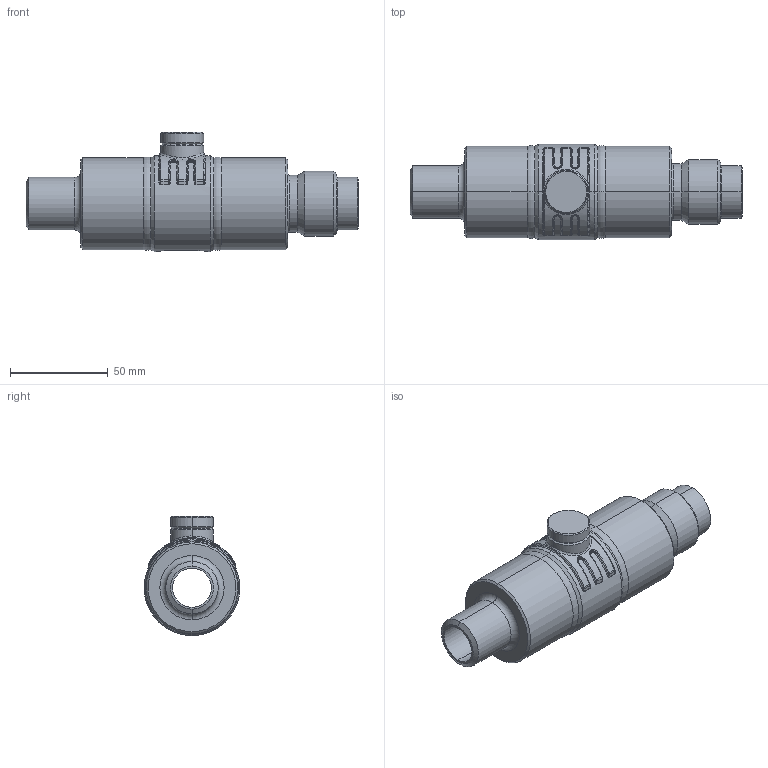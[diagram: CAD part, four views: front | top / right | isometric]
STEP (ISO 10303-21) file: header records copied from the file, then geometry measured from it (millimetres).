
FILE_DESCRIPTION((''),'2;1');
FILE_NAME('KHMO-AB-V-ISKT-020P040','2025-02-11T14:26:34',('jeitlers'),('KLINGER'),'CREO PARAMETRIC BY PTC INC, 2023014','CREO PARAMETRIC BY PTC INC, 2023014','');
FILE_SCHEMA(('CONFIG_CONTROL_DESIGN'));
Length unit declared in the file: millimetre
Products named in the file (1): KHMO-AB-V-ISKT-020P040
Bounding box: 170 x 49 x 61 mm (x, y, z)
Volume: 171246.5 mm3; surface area: 49640.4 mm2
Topology: 1 solids, 1 shells, 335 faces, 723 edges, 405 vertices
Faces by surface type: cylinder 101, torus 76, plane 64, bspline 48, cone 44, sphere 2
Entity records: 16854 total; most frequent: CARTESIAN_POINT 9717, DIRECTION 1572, ORIENTED_EDGE 1442, EDGE_CURVE 721, AXIS2_PLACEMENT_3D 682, VERTEX_POINT 405, CIRCLE 395, EDGE_LOOP 358
